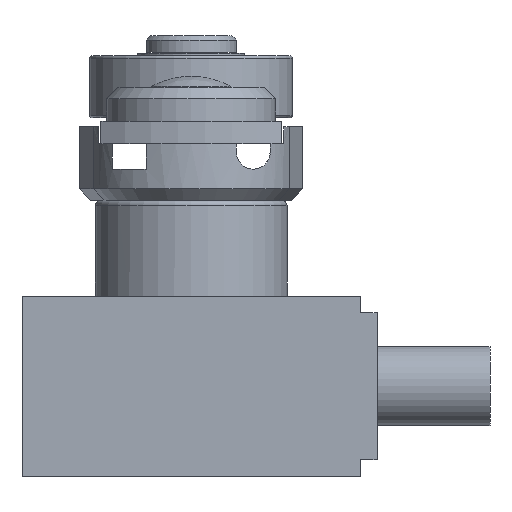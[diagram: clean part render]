
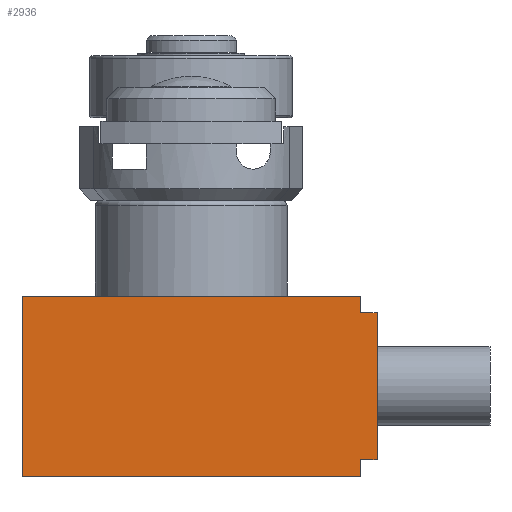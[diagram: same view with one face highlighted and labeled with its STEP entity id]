
A CAD part, front view. The second image highlights one B-rep face of the part: STEP entity #2936.
In plain terms, the highlighted planar face has unit normal (0, -1, 0) as drawn and (0, 0, -1) by its records, which use the part's own axes.
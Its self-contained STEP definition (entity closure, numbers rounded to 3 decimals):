
#223=LINE('',#4691,#499);
#227=LINE('',#4702,#503);
#235=LINE('',#4717,#511);
#267=LINE('',#4820,#543);
#283=LINE('',#4865,#559);
#299=LINE('',#4898,#575);
#302=LINE('',#4903,#578);
#303=LINE('',#4905,#579);
#499=VECTOR('',#3841,13.);
#503=VECTOR('',#3849,1.5);
#511=VECTOR('',#3857,1.5);
#543=VECTOR('',#3961,30.);
#559=VECTOR('',#4005,16.);
#575=VECTOR('',#4043,30.);
#578=VECTOR('',#4050,1.5);
#579=VECTOR('',#4053,1.5);
#689=PLANE('',#3219);
#970=FACE_OUTER_BOUND('',#1184,.T.);
#1184=EDGE_LOOP('',(#2709,#2710,#2711,#2712,#2713,#2714,#2715,#2716));
#1494=VERTEX_POINT('',#4688);
#1495=VERTEX_POINT('',#4690);
#1497=VERTEX_POINT('',#4695);
#1499=VERTEX_POINT('',#4699);
#1500=VERTEX_POINT('',#4701);
#1507=VERTEX_POINT('',#4715);
#1542=VERTEX_POINT('',#4818);
#1557=VERTEX_POINT('',#4863);
#1844=EDGE_CURVE('',#1495,#1494,#223,.T.);
#1849=EDGE_CURVE('',#1500,#1499,#227,.T.);
#1857=EDGE_CURVE('',#1497,#1507,#235,.T.);
#1906=EDGE_CURVE('',#1507,#1542,#267,.T.);
#1928=EDGE_CURVE('',#1557,#1542,#283,.T.);
#1945=EDGE_CURVE('',#1557,#1500,#299,.T.);
#1948=EDGE_CURVE('',#1499,#1495,#302,.T.);
#1949=EDGE_CURVE('',#1497,#1494,#303,.T.);
#2709=ORIENTED_EDGE('',*,*,#1844,.T.);
#2710=ORIENTED_EDGE('',*,*,#1949,.F.);
#2711=ORIENTED_EDGE('',*,*,#1857,.T.);
#2712=ORIENTED_EDGE('',*,*,#1906,.T.);
#2713=ORIENTED_EDGE('',*,*,#1928,.F.);
#2714=ORIENTED_EDGE('',*,*,#1945,.T.);
#2715=ORIENTED_EDGE('',*,*,#1849,.T.);
#2716=ORIENTED_EDGE('',*,*,#1948,.T.);
#2936=ADVANCED_FACE('',(#970),#689,.T.);
#3219=AXIS2_PLACEMENT_3D('',#4904,#4051,#4052);
#3841=DIRECTION('',(0.,-1.,0.));
#3849=DIRECTION('',(0.,-1.,0.));
#3857=DIRECTION('',(0.,-1.,0.));
#3961=DIRECTION('',(-1.,0.,0.));
#4005=DIRECTION('',(0.,-1.,0.));
#4043=DIRECTION('',(1.,0.,0.));
#4050=DIRECTION('',(1.,0.,0.));
#4051=DIRECTION('center_axis',(0.,0.,-1.));
#4052=DIRECTION('ref_axis',(-1.,0.,0.));
#4053=DIRECTION('',(1.,0.,0.));
#4688=CARTESIAN_POINT('',(16.5,-14.5,-40.));
#4690=CARTESIAN_POINT('',(16.5,-1.5,-40.));
#4691=CARTESIAN_POINT('',(16.5,-1.5,-40.));
#4695=CARTESIAN_POINT('',(15.,-14.5,-40.));
#4699=CARTESIAN_POINT('',(15.,-1.5,-40.));
#4701=CARTESIAN_POINT('',(15.,0.,-40.));
#4702=CARTESIAN_POINT('',(15.,0.,-40.));
#4715=CARTESIAN_POINT('',(15.,-16.,-40.));
#4717=CARTESIAN_POINT('',(15.,-14.5,-40.));
#4818=CARTESIAN_POINT('',(-15.,-16.,-40.));
#4820=CARTESIAN_POINT('',(15.,-16.,-40.));
#4863=CARTESIAN_POINT('',(-15.,0.,-40.));
#4865=CARTESIAN_POINT('',(-15.,0.,-40.));
#4898=CARTESIAN_POINT('',(-15.,0.,-40.));
#4903=CARTESIAN_POINT('',(15.,-1.5,-40.));
#4904=CARTESIAN_POINT('Origin',(15.,-1.5,-40.));
#4905=CARTESIAN_POINT('',(15.,-14.5,-40.));
